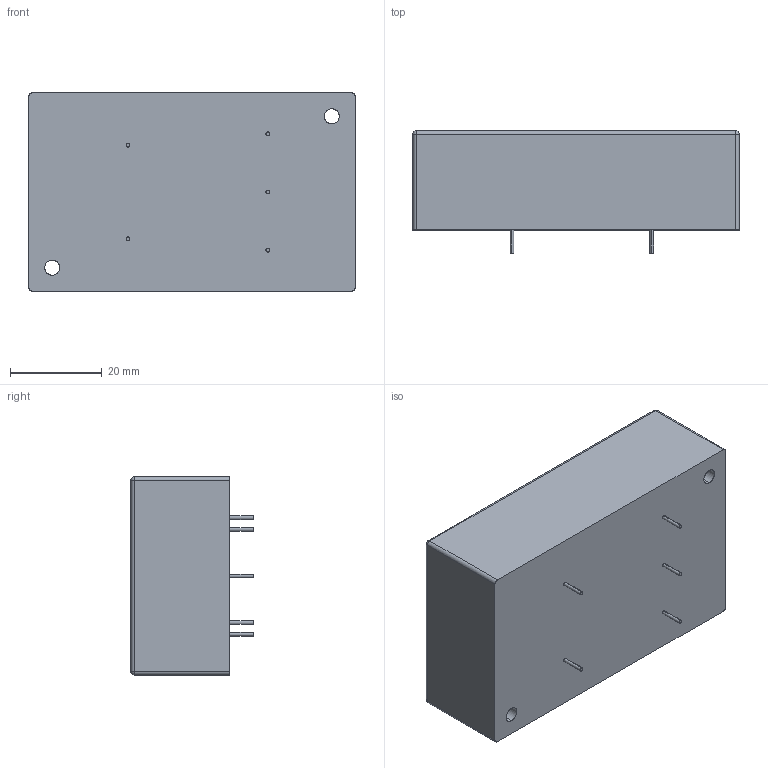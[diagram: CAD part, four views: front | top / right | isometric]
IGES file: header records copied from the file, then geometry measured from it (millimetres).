
Start section: SolidWorks IGES file using analytic representation for surfaces
Global section: file name: C:\Users\asmith\Desktop\~For Darol\Checked .igs Files\F-Series\F02-F60 wCT.IGS; native system: SolidWorks 2017; preprocessor: SolidWorks 2017; author: asmith; date: 171113.100343; units: inch
Bounding box: 71.12 x 26.67 x 43.18 mm (x, y, z)
Surface area: 11445.7 mm2 (no closed solid volume)
Topology: 0 solids, 0 shells, 37 faces, 432 edges, 428 vertices
Faces by surface type: revolution 26, bspline 11
